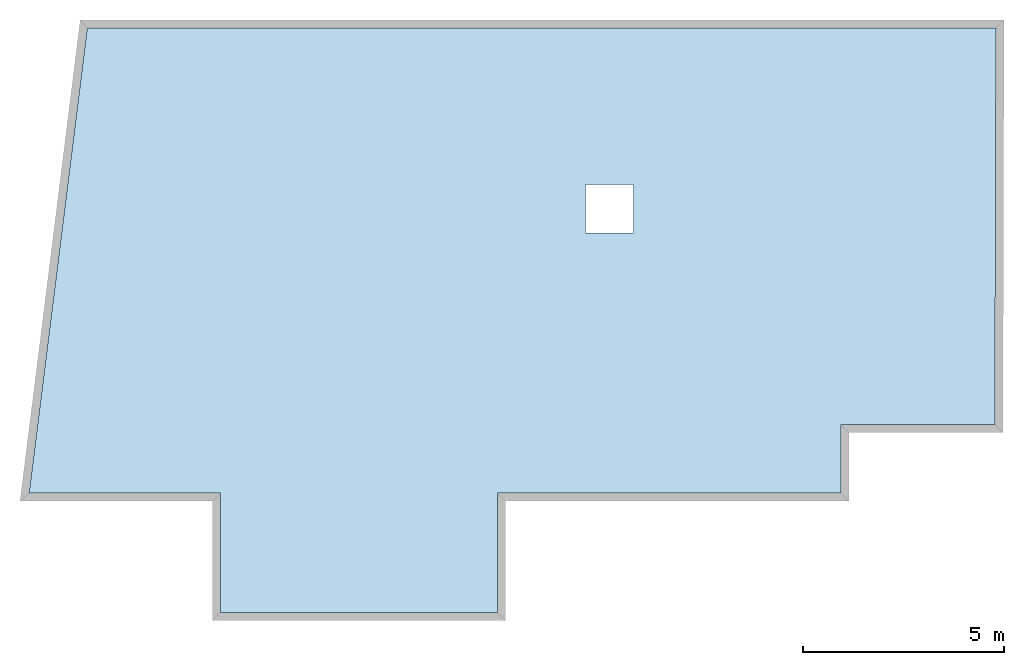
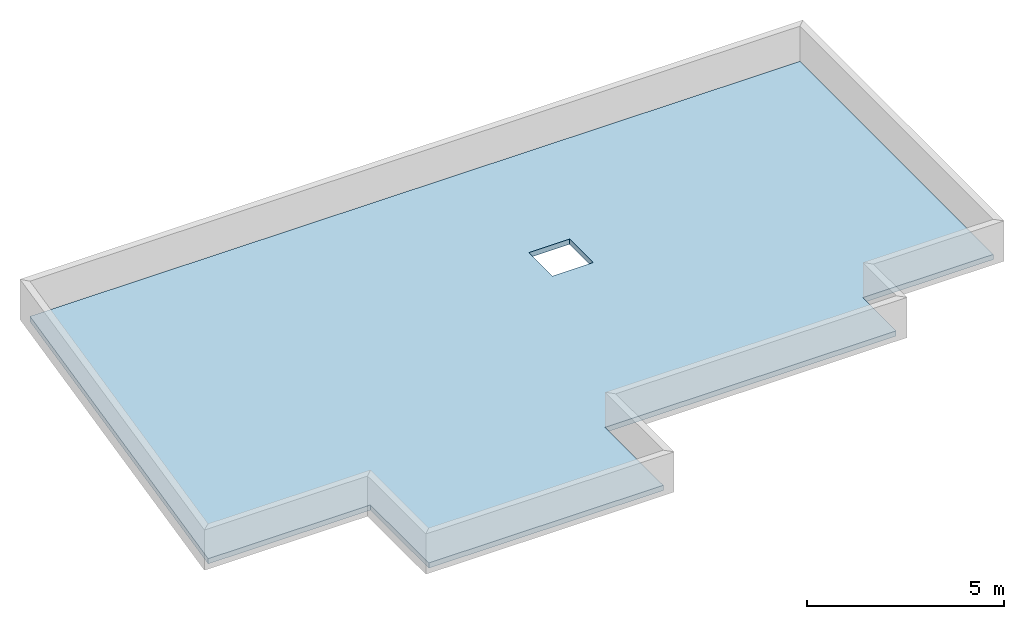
# One storey, part 2 of 2: 1 slab.
"""IFC2X3 building model written with IfcOpenShell, lengths in metres."""

from ifc_helpers import new_model, si_unit, direction, frame, origin_with_axes, place, context, subcontext, project, spatial, faceted_brep, material, element, save


model = new_model("IFC2X3")

# Units and contexts
model_context = context("Model", 3, precision=0.0001, world=origin_with_axes(), true_north=direction((0.0, 1.0)))
plan_context = context("Plan", 2, precision=0.0001, world=origin_with_axes(), true_north=direction((0.0, 1.0)))
body_context = subcontext(model_context, "Body", "Model", "MODEL_VIEW")
ifc_project = project(units=[si_unit("MASSUNIT", "GRAM", prefix="KILO"), si_unit("AREAUNIT", "SQUARE_METRE"), si_unit("LENGTHUNIT", "METRE"), si_unit("VOLUMEUNIT", "CUBIC_METRE")], contexts=[plan_context, model_context])

# Site, building, storey
site_placement = place(None, origin_with_axes())
site = spatial("IfcSite", under=ifc_project, at=site_placement, Name="$", CompositionType="ELEMENT")
building_placement = place(site_placement, origin_with_axes())
building = spatial("IfcBuilding", under=site, at=building_placement, Name="Classeur ENS Ensemble", CompositionType="ELEMENT")
storey_placement = place(building_placement, frame((-20.93597535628, -2.587550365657, 8.73), z_axis=(0.0, 0.0, 1.0), x_axis=(1.0, 0.0, 0.0)))
storey = spatial("IfcBuildingStorey", under=building, at=storey_placement, Name="004 Toiture Terrasse", CompositionType="ELEMENT", Elevation=8.73)

# Slab
ifc_material = material(Name="Default material")
slab_placement = place(storey_placement, frame((19.683345, -9.192449, 0.16), z_axis=(0.0, 0.0, 1.0), x_axis=(1.0, 0.0, 0.0)))
element("IfcSlab", 1, at=slab_placement, inside=storey, material=ifc_material, Name="Étanchéité sur isolant", PredefinedType="FLOOR", context=body_context, shape_type="Brep", held_by="IfcProductRepresentation", body=[
    faceted_brep([(20.181228, 1.700043, 0.0), (24.033347, 11.56, 0.0), (15.028137, 7.669862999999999, 0.0), (24.033347, 11.56, 0.0), (20.181228, 1.700043, 0.0), (24.008296, 1.700043, 0.0), (15.028137, 7.669862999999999, 0.0), (24.033347, 11.56, 0.0), (13.828137, 7.669954, 0.0), (24.033347, 11.56, -0.1599999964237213), (13.828137, 7.669954, -0.1599999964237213), (1.446812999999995, 11.56, -0.1599999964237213), (20.181228, 0.0, -0.1599999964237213), (11.638137, 0.0, -0.1599999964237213), (20.181228, 1.700043, -0.1599999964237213), (20.181228, 1.700043, -0.1599999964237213), (11.638137, 0.0, -0.1599999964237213), (15.028046, 6.469863, -0.1599999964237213), (13.828137, 7.669954, -0.1599999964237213), (13.828046, 6.469954, -0.1599999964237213), (1.446812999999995, 11.56, -0.1599999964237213), (15.028046, 6.469863, 0.0), (11.638137, 0.0, 0.0), (20.181228, 1.700043, 0.0), (11.638137, 0.0, 0.0), (4.758136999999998, -2.965, 0.0), (11.638137, -2.965, 0.0), (15.028137, 7.669862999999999, -0.1599999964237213), (24.033347, 11.56, -0.1599999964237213), (20.181228, 1.700043, -0.1599999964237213), (4.758136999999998, 0.0, -0.1599999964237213), (13.828046, 6.469954, -0.1599999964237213), (11.638137, 0.0, -0.1599999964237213), (13.828137, 7.669954, -0.1599999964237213), (24.033347, 11.56, -0.1599999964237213), (15.028137, 7.669862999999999, -0.1599999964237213), (4.758136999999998, 0.0, 0.0), (1.446812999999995, 11.56, 0.0), (0.0, 0.0, 0.0), (20.181228, 1.700043, -0.1599999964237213), (15.028046, 6.469863, -0.1599999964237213), (15.028137, 7.669862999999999, -0.1599999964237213), (24.008296, 1.700043, -0.1599999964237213), (20.181228, 1.700043, -0.1599999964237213), (24.033347, 11.56, -0.1599999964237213), (13.828046, 6.469954, -0.1599999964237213), (15.028046, 6.469863, -0.1599999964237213), (11.638137, 0.0, -0.1599999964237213), (11.638137, 0.0, 0.0), (15.028046, 6.469863, 0.0), (13.828046, 6.469954, 0.0), (1.446812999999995, 11.56, 0.0), (4.758136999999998, 0.0, 0.0), (13.828046, 6.469954, 0.0), (1.446812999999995, 11.56, 0.0), (13.828137, 7.669954, 0.0), (24.033347, 11.56, 0.0), (4.758136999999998, -2.965, -0.1599999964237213), (4.758136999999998, 0.0, -0.1599999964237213), (11.638137, 0.0, -0.1599999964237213), (20.181228, 1.700043, 0.0), (11.638137, 0.0, 0.0), (20.181228, 0.0, 0.0), (11.638137, 0.0, 0.0), (4.758136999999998, 0.0, 0.0), (4.758136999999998, -2.965, 0.0), (1.446812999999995, 11.56, 0.0), (13.828046, 6.469954, 0.0), (13.828137, 7.669954, 0.0), (11.638137, 0.0, 0.0), (13.828046, 6.469954, 0.0), (4.758136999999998, 0.0, 0.0), (11.638137, -2.965, -0.1599999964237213), (4.758136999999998, -2.965, -0.1599999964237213), (11.638137, 0.0, -0.1599999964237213), (0.0, 0.0, -0.1599999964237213), (1.446812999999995, 11.56, -0.1599999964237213), (4.758136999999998, 0.0, -0.1599999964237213), (13.828046, 6.469954, -0.1599999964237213), (4.758136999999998, 0.0, -0.1599999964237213), (1.446812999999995, 11.56, -0.1599999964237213), (15.028137, 7.669862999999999, 0.0), (15.028046, 6.469863, 0.0), (20.181228, 1.700043, 0.0), (11.638137, -2.965, 0.0), (4.758136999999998, -2.965, 0.0), (4.758136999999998, -2.965, -0.1599999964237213), (11.638137, -2.965, -0.1599999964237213), (20.181228, 0.0, 0.0), (11.638137, 0.0, 0.0), (11.638137, 0.0, -0.1599999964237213), (20.181228, 0.0, -0.1599999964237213), (13.828046, 6.469954, 0.0), (15.028046, 6.469863, 0.0), (15.028046, 6.469863, -0.1599999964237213), (13.828046, 6.469954, -0.1599999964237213), (20.181228, 1.700043, 0.0), (20.181228, 0.0, 0.0), (20.181228, 0.0, -0.1599999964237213), (20.181228, 1.700043, -0.1599999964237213), (15.028137, 7.669862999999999, 0.0), (13.828137, 7.669954, 0.0), (13.828137, 7.669954, -0.1599999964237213), (15.028137, 7.669862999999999, -0.1599999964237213), (11.638137, 0.0, 0.0), (11.638137, -2.965, 0.0), (11.638137, -2.965, -0.1599999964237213), (11.638137, 0.0, -0.1599999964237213), (4.758136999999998, 0.0, 0.0), (0.0, 0.0, 0.0), (0.0, 0.0, -0.1599999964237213), (4.758136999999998, 0.0, -0.1599999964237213), (4.758136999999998, -2.965, 0.0), (4.758136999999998, 0.0, 0.0), (4.758136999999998, 0.0, -0.1599999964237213), (4.758136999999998, -2.965, -0.1599999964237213), (15.028046, 6.469863, 0.0), (15.028137, 7.669862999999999, 0.0), (15.028137, 7.669862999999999, -0.1599999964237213), (15.028046, 6.469863, -0.1599999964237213), (0.0, 0.0, 0.0), (1.446812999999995, 11.56, 0.0), (1.446812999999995, 11.56, -0.1599999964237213), (0.0, 0.0, -0.1599999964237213), (1.446812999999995, 11.56, 0.0), (24.033347, 11.56, 0.0), (24.033347, 11.56, -0.1599999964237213), (1.446812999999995, 11.56, -0.1599999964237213), (24.008296, 1.700043, 0.0), (20.181228, 1.700043, 0.0), (20.181228, 1.700043, -0.1599999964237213), (24.008296, 1.700043, -0.1599999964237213), (13.828137, 7.669954, 0.0), (13.828046, 6.469954, 0.0), (13.828046, 6.469954, -0.1599999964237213), (13.828137, 7.669954, -0.1599999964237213), (24.033347, 11.56, 0.0), (24.008296, 1.700043, 0.0), (24.008296, 1.700043, -0.1599999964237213), (24.033347, 11.56, -0.1599999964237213)], [[[0, 1, 2]], [[3, 4, 5]], [[6, 7, 8]], [[9, 10, 11]], [[12, 13, 14]], [[15, 16, 17]], [[18, 19, 20]], [[21, 22, 23]], [[24, 25, 26]], [[27, 28, 29]], [[30, 31, 32]], [[33, 34, 35]], [[36, 37, 38]], [[39, 40, 41]], [[42, 43, 44]], [[45, 46, 47]], [[48, 49, 50]], [[51, 52, 53]], [[54, 55, 56]], [[57, 58, 59]], [[60, 61, 62]], [[63, 64, 65]], [[66, 67, 68]], [[69, 70, 71]], [[72, 73, 74]], [[75, 76, 77]], [[78, 79, 80]], [[81, 82, 83]], [[84, 85, 86, 87]], [[88, 89, 90, 91]], [[92, 93, 94, 95]], [[96, 97, 98, 99]], [[100, 101, 102, 103]], [[104, 105, 106, 107]], [[108, 109, 110, 111]], [[112, 113, 114, 115]], [[116, 117, 118, 119]], [[120, 121, 122, 123]], [[124, 125, 126, 127]], [[128, 129, 130, 131]], [[132, 133, 134, 135]], [[136, 137, 138, 139]]]),
])

save(model, "model.ifc")
